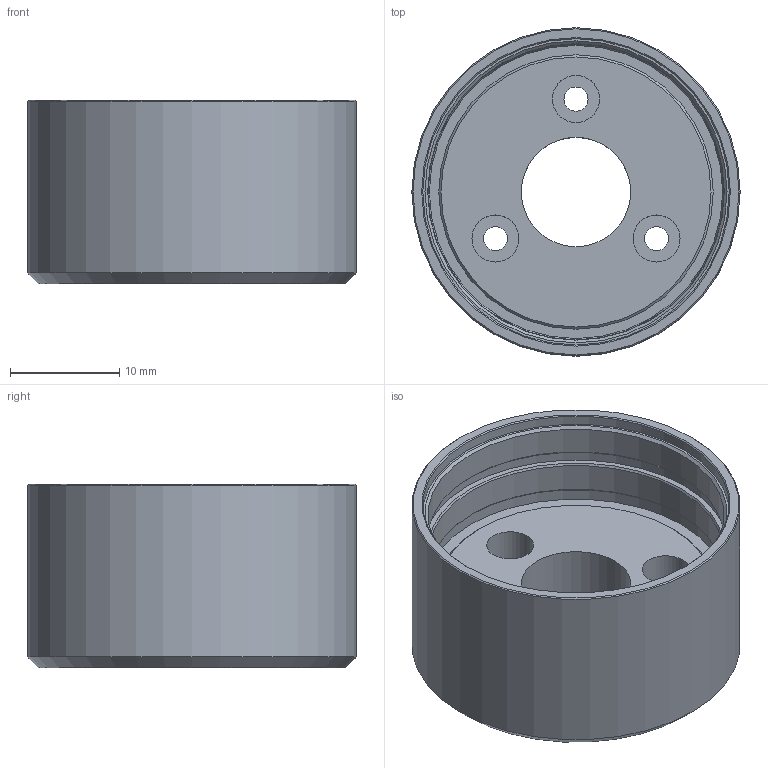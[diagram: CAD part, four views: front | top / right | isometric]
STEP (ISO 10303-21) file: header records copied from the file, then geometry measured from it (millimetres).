
FILE_DESCRIPTION(/* description */ (''),/* implementation_level */ '2;1');
FILE_NAME(/* name */ '30-1_flange_a.stp',/* time_stamp */ '2016-09-07T10:55:03+02:00',/* author */ ('DR. FRITZ FAULHABER GmbH & Co. KG'),/* organization */ ('DR. FRITZ FAULHABER GmbH & Co. KG'),/* preprocessor_version */ 'ST-DEVELOPER v16',/* originating_system */ 'SIEMENS PLM Software NX 10.0',/* authorisation */ '');
FILE_SCHEMA (('AUTOMOTIVE_DESIGN { 1 0 10303 214 3 1 1 1 }'));
Length unit declared in the file: millimetre
Products named in the file (1): F0200012034_J
Bounding box: 30 x 30 x 16.8 mm (x, y, z)
Volume: 5817 mm3; surface area: 4072.3 mm2
Topology: 1 solids, 1 shells, 32 faces, 75 edges, 60 vertices
Faces by surface type: cylinder 13, plane 10, cone 9
Full cylindrical faces by diameter (mm): 2.2 x3, 4.3 x3, 10 x1, 26.8 x1, 27.1 x1, 27.2 x1, 28 x2, 30 x1
Entity records: 816 total; most frequent: DIRECTION 150, CARTESIAN_POINT 114, AXIS2_PLACEMENT_3D 72, FACE_BOUND 70, EDGE_LOOP 70, ORIENTED_EDGE 70, CIRCLE 39, VERTEX_POINT 35
